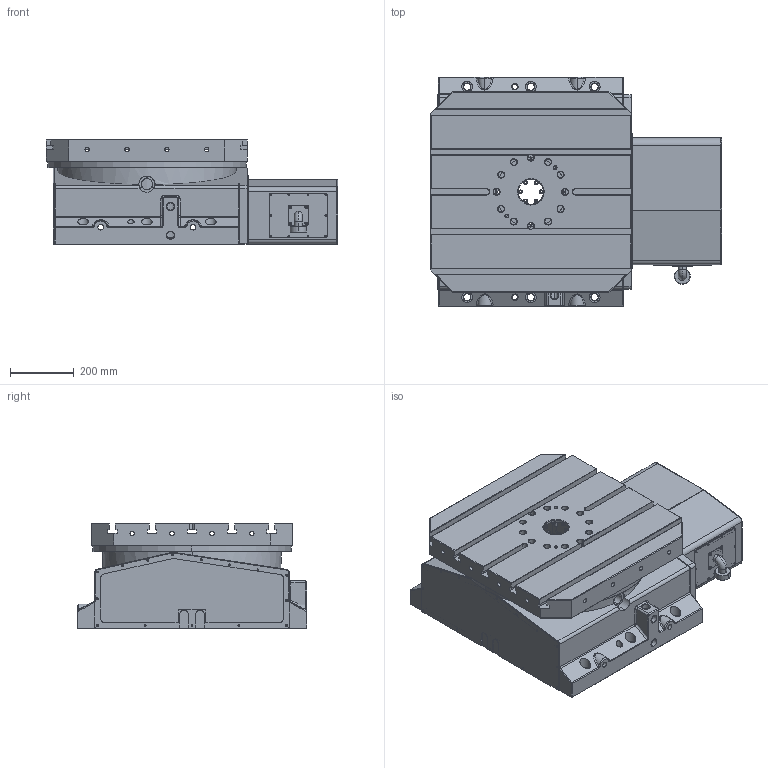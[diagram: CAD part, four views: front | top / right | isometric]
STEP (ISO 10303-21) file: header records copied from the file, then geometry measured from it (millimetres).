
FILE_DESCRIPTION (( 'STEP AP203' ), '1' );
FILE_NAME ('WDS-H630 3D.STEP', '2020-11-07T10:02:17', ( '' ), ( '' ), 'SwSTEP 2.0', 'SolidWorks 2018', '' );
FILE_SCHEMA (( 'CONFIG_CONTROL_DESIGN' ));
Length unit declared in the file: millimetre
Products named in the file (1): WDS-H630 3D
Bounding box: 913 x 720 x 331 mm (x, y, z)
Surface area: 3200180.7 mm2 (no closed solid volume)
Topology: 0 solids, 17 shells, 878 faces, 2684 edges, 1821 vertices
Faces by surface type: cylinder 431, plane 240, cone 168, bspline 20, torus 19
Entity records: 34510 total; most frequent: CARTESIAN_POINT 9345, DIRECTION 5661, ORIENTED_EDGE 4641, EDGE_CURVE 2684, AXIS2_PLACEMENT_3D 2231, VERTEX_POINT 1821, CIRCLE 1372, EDGE_LOOP 1218
